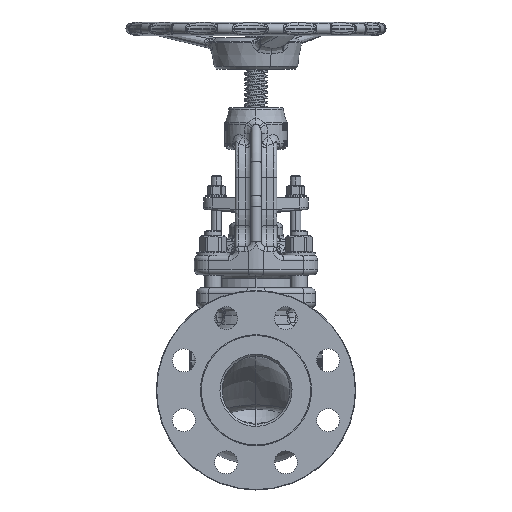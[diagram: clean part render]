
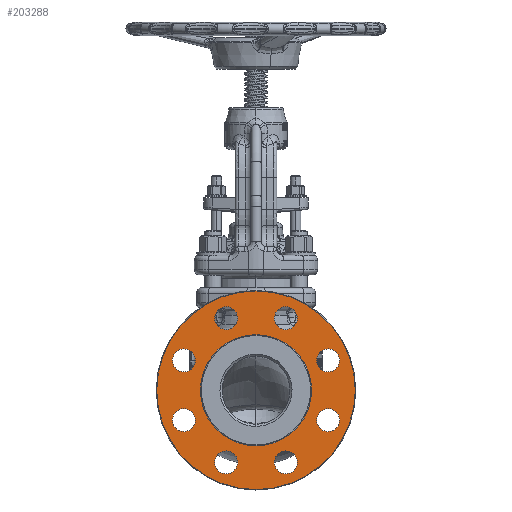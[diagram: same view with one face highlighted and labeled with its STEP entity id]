
A CAD part, left-side view. The second image highlights one B-rep face of the part: STEP entity #203288.
In plain terms, the highlighted planar face has unit normal (-1, 0, 0).
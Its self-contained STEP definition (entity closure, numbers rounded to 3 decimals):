
#61606=CARTESIAN_POINT('',(-144.4,0.,0.));
#61607=DIRECTION('',(-1.,0.,0.));
#61608=DIRECTION('',(0.,0.,-1.));
#61609=AXIS2_PLACEMENT_3D('',#61606,#61607,#61608);
#61616=CARTESIAN_POINT('',(-144.4,0.,0.));
#61617=DIRECTION('',(-1.,0.,0.));
#61618=DIRECTION('',(0.,0.,1.));
#61619=AXIS2_PLACEMENT_3D('',#61616,#61617,#61618);
#61621=CARTESIAN_POINT('',(-144.4,0.,0.));
#61622=DIRECTION('',(-1.,0.,0.));
#61623=DIRECTION('',(0.,0.,1.));
#61624=AXIS2_PLACEMENT_3D('',#61621,#61622,#61623);
#61626=CARTESIAN_POINT('',(-144.4,0.,0.));
#61627=DIRECTION('',(1.,0.,0.));
#61628=DIRECTION('',(0.,0.,1.));
#61629=AXIS2_PLACEMENT_3D('',#61626,#61627,#61628);
#61631=CARTESIAN_POINT('',(-144.4,-28.586,69.014));
#61632=DIRECTION('',(1.,0.,0.));
#61633=DIRECTION('',(0.,1.,0.));
#61634=AXIS2_PLACEMENT_3D('',#61631,#61632,#61633);
#61636=CARTESIAN_POINT('',(-144.4,-28.586,69.014));
#61637=DIRECTION('',(1.,0.,0.));
#61638=DIRECTION('',(0.,-1.,0.));
#61639=AXIS2_PLACEMENT_3D('',#61636,#61637,#61638);
#61641=CARTESIAN_POINT('',(-144.4,-69.014,28.586));
#61642=DIRECTION('',(1.,0.,0.));
#61643=DIRECTION('',(0.,1.,0.));
#61644=AXIS2_PLACEMENT_3D('',#61641,#61642,#61643);
#61646=CARTESIAN_POINT('',(-144.4,-69.014,28.586));
#61647=DIRECTION('',(1.,0.,0.));
#61648=DIRECTION('',(0.,-1.,0.));
#61649=AXIS2_PLACEMENT_3D('',#61646,#61647,#61648);
#61651=CARTESIAN_POINT('',(-144.4,-69.014,-28.586));
#61652=DIRECTION('',(1.,0.,0.));
#61653=DIRECTION('',(0.,1.,0.));
#61654=AXIS2_PLACEMENT_3D('',#61651,#61652,#61653);
#61656=CARTESIAN_POINT('',(-144.4,-69.014,-28.586));
#61657=DIRECTION('',(1.,0.,0.));
#61658=DIRECTION('',(0.,-1.,0.));
#61659=AXIS2_PLACEMENT_3D('',#61656,#61657,#61658);
#61661=CARTESIAN_POINT('',(-144.4,-28.586,-69.014));
#61662=DIRECTION('',(1.,0.,0.));
#61663=DIRECTION('',(0.,1.,0.));
#61664=AXIS2_PLACEMENT_3D('',#61661,#61662,#61663);
#61666=CARTESIAN_POINT('',(-144.4,-28.586,-69.014));
#61667=DIRECTION('',(1.,0.,0.));
#61668=DIRECTION('',(0.,-1.,0.));
#61669=AXIS2_PLACEMENT_3D('',#61666,#61667,#61668);
#61671=CARTESIAN_POINT('',(-144.4,28.586,-69.014));
#61672=DIRECTION('',(1.,0.,0.));
#61673=DIRECTION('',(0.,1.,0.));
#61674=AXIS2_PLACEMENT_3D('',#61671,#61672,#61673);
#61676=CARTESIAN_POINT('',(-144.4,28.586,-69.014));
#61677=DIRECTION('',(1.,0.,0.));
#61678=DIRECTION('',(0.,-1.,0.));
#61679=AXIS2_PLACEMENT_3D('',#61676,#61677,#61678);
#61681=CARTESIAN_POINT('',(-144.4,69.014,-28.586));
#61682=DIRECTION('',(1.,0.,0.));
#61683=DIRECTION('',(0.,1.,0.));
#61684=AXIS2_PLACEMENT_3D('',#61681,#61682,#61683);
#61686=CARTESIAN_POINT('',(-144.4,69.014,-28.586));
#61687=DIRECTION('',(1.,0.,0.));
#61688=DIRECTION('',(0.,-1.,0.));
#61689=AXIS2_PLACEMENT_3D('',#61686,#61687,#61688);
#61691=CARTESIAN_POINT('',(-144.4,69.014,28.586));
#61692=DIRECTION('',(1.,0.,0.));
#61693=DIRECTION('',(0.,1.,0.));
#61694=AXIS2_PLACEMENT_3D('',#61691,#61692,#61693);
#61696=CARTESIAN_POINT('',(-144.4,69.014,28.586));
#61697=DIRECTION('',(1.,0.,0.));
#61698=DIRECTION('',(0.,-1.,0.));
#61699=AXIS2_PLACEMENT_3D('',#61696,#61697,#61698);
#61701=CARTESIAN_POINT('',(-144.4,28.586,69.014));
#61702=DIRECTION('',(1.,0.,0.));
#61703=DIRECTION('',(0.,1.,0.));
#61704=AXIS2_PLACEMENT_3D('',#61701,#61702,#61703);
#61706=CARTESIAN_POINT('',(-144.4,28.586,69.014));
#61707=DIRECTION('',(1.,0.,0.));
#61708=DIRECTION('',(0.,-1.,0.));
#61709=AXIS2_PLACEMENT_3D('',#61706,#61707,#61708);
#108789=CARTESIAN_POINT('',(-144.4,0.,-95.058));
#108790=VERTEX_POINT('',#108789);
#108791=CARTESIAN_POINT('',(-144.4,0.,95.058));
#108792=VERTEX_POINT('',#108791);
#108817=CARTESIAN_POINT('',(-144.4,-17.586,69.014));
#108818=CARTESIAN_POINT('',(-144.4,-39.586,69.014));
#108819=VERTEX_POINT('',#108817);
#108820=VERTEX_POINT('',#108818);
#108825=CARTESIAN_POINT('',(-144.4,-58.014,28.586));
#108826=CARTESIAN_POINT('',(-144.4,-80.014,28.586));
#108827=VERTEX_POINT('',#108825);
#108828=VERTEX_POINT('',#108826);
#108833=CARTESIAN_POINT('',(-144.4,-58.014,-28.586));
#108834=CARTESIAN_POINT('',(-144.4,-80.014,-28.586));
#108835=VERTEX_POINT('',#108833);
#108836=VERTEX_POINT('',#108834);
#108841=CARTESIAN_POINT('',(-144.4,-17.586,-69.014));
#108842=CARTESIAN_POINT('',(-144.4,-39.586,-69.014));
#108843=VERTEX_POINT('',#108841);
#108844=VERTEX_POINT('',#108842);
#108849=CARTESIAN_POINT('',(-144.4,39.586,-69.014));
#108850=CARTESIAN_POINT('',(-144.4,17.586,-69.014));
#108851=VERTEX_POINT('',#108849);
#108852=VERTEX_POINT('',#108850);
#108857=CARTESIAN_POINT('',(-144.4,80.014,-28.586));
#108858=CARTESIAN_POINT('',(-144.4,58.014,-28.586));
#108859=VERTEX_POINT('',#108857);
#108860=VERTEX_POINT('',#108858);
#108865=CARTESIAN_POINT('',(-144.4,80.014,28.586));
#108866=CARTESIAN_POINT('',(-144.4,58.014,28.586));
#108867=VERTEX_POINT('',#108865);
#108868=VERTEX_POINT('',#108866);
#108873=CARTESIAN_POINT('',(-144.4,39.586,69.014));
#108874=CARTESIAN_POINT('',(-144.4,17.586,69.014));
#108875=VERTEX_POINT('',#108873);
#108876=VERTEX_POINT('',#108874);
#109015=CARTESIAN_POINT('',(-144.4,0.,53.2));
#109016=VERTEX_POINT('',#109015);
#109019=CARTESIAN_POINT('',(-144.4,0.,-53.2));
#109020=VERTEX_POINT('',#109019);
#203225=CARTESIAN_POINT('',(-144.4,0.,0.));
#203226=DIRECTION('',(-1.,0.,0.));
#203227=DIRECTION('',(0.,0.,1.));
#203228=AXIS2_PLACEMENT_3D('',#203225,#203226,#203227);
#203229=PLANE('',#203228);
#203230=ORIENTED_EDGE('',*,*,#203204,.F.);
#203231=ORIENTED_EDGE('',*,*,#203220,.F.);
#203232=EDGE_LOOP('',(#203230,#203231));
#203233=FACE_OUTER_BOUND('',#203232,.F.);
#203235=ORIENTED_EDGE('',*,*,#203234,.T.);
#203237=ORIENTED_EDGE('',*,*,#203236,.F.);
#203238=EDGE_LOOP('',(#203235,#203237));
#203239=FACE_BOUND('',#203238,.F.);
#203241=ORIENTED_EDGE('',*,*,#203240,.F.);
#203243=ORIENTED_EDGE('',*,*,#203242,.F.);
#203244=EDGE_LOOP('',(#203241,#203243));
#203245=FACE_BOUND('',#203244,.F.);
#203247=ORIENTED_EDGE('',*,*,#203246,.F.);
#203249=ORIENTED_EDGE('',*,*,#203248,.F.);
#203250=EDGE_LOOP('',(#203247,#203249));
#203251=FACE_BOUND('',#203250,.F.);
#203253=ORIENTED_EDGE('',*,*,#203252,.F.);
#203255=ORIENTED_EDGE('',*,*,#203254,.F.);
#203256=EDGE_LOOP('',(#203253,#203255));
#203257=FACE_BOUND('',#203256,.F.);
#203259=ORIENTED_EDGE('',*,*,#203258,.F.);
#203261=ORIENTED_EDGE('',*,*,#203260,.F.);
#203262=EDGE_LOOP('',(#203259,#203261));
#203263=FACE_BOUND('',#203262,.F.);
#203265=ORIENTED_EDGE('',*,*,#203264,.F.);
#203267=ORIENTED_EDGE('',*,*,#203266,.F.);
#203268=EDGE_LOOP('',(#203265,#203267));
#203269=FACE_BOUND('',#203268,.F.);
#203271=ORIENTED_EDGE('',*,*,#203270,.F.);
#203273=ORIENTED_EDGE('',*,*,#203272,.F.);
#203274=EDGE_LOOP('',(#203271,#203273));
#203275=FACE_BOUND('',#203274,.F.);
#203277=ORIENTED_EDGE('',*,*,#203276,.F.);
#203279=ORIENTED_EDGE('',*,*,#203278,.F.);
#203280=EDGE_LOOP('',(#203277,#203279));
#203281=FACE_BOUND('',#203280,.F.);
#203283=ORIENTED_EDGE('',*,*,#203282,.F.);
#203285=ORIENTED_EDGE('',*,*,#203284,.F.);
#203286=EDGE_LOOP('',(#203283,#203285));
#203287=FACE_BOUND('',#203286,.F.);
#61610=CIRCLE('',#61609,95.058);
#61620=CIRCLE('',#61619,95.058);
#61625=CIRCLE('',#61624,53.2);
#61630=CIRCLE('',#61629,53.2);
#61635=CIRCLE('',#61634,11.);
#61640=CIRCLE('',#61639,11.);
#61645=CIRCLE('',#61644,11.);
#61650=CIRCLE('',#61649,11.);
#61655=CIRCLE('',#61654,11.);
#61660=CIRCLE('',#61659,11.);
#61665=CIRCLE('',#61664,11.);
#61670=CIRCLE('',#61669,11.);
#61675=CIRCLE('',#61674,11.);
#61680=CIRCLE('',#61679,11.);
#61685=CIRCLE('',#61684,11.);
#61690=CIRCLE('',#61689,11.);
#61695=CIRCLE('',#61694,11.);
#61700=CIRCLE('',#61699,11.);
#61705=CIRCLE('',#61704,11.);
#61710=CIRCLE('',#61709,11.);
#203204=EDGE_CURVE('',#108790,#108792,#61610,.T.);
#203220=EDGE_CURVE('',#108792,#108790,#61620,.T.);
#203234=EDGE_CURVE('',#109016,#109020,#61625,.T.);
#203236=EDGE_CURVE('',#109016,#109020,#61630,.T.);
#203240=EDGE_CURVE('',#108819,#108820,#61635,.T.);
#203242=EDGE_CURVE('',#108820,#108819,#61640,.T.);
#203246=EDGE_CURVE('',#108827,#108828,#61645,.T.);
#203248=EDGE_CURVE('',#108828,#108827,#61650,.T.);
#203252=EDGE_CURVE('',#108835,#108836,#61655,.T.);
#203254=EDGE_CURVE('',#108836,#108835,#61660,.T.);
#203258=EDGE_CURVE('',#108843,#108844,#61665,.T.);
#203260=EDGE_CURVE('',#108844,#108843,#61670,.T.);
#203264=EDGE_CURVE('',#108851,#108852,#61675,.T.);
#203266=EDGE_CURVE('',#108852,#108851,#61680,.T.);
#203270=EDGE_CURVE('',#108859,#108860,#61685,.T.);
#203272=EDGE_CURVE('',#108860,#108859,#61690,.T.);
#203276=EDGE_CURVE('',#108867,#108868,#61695,.T.);
#203278=EDGE_CURVE('',#108868,#108867,#61700,.T.);
#203282=EDGE_CURVE('',#108875,#108876,#61705,.T.);
#203284=EDGE_CURVE('',#108876,#108875,#61710,.T.);
#203288=ADVANCED_FACE('',(#203233,#203239,#203245,#203251,#203257,#203263,
#203269,#203275,#203281,#203287),#203229,.T.);
